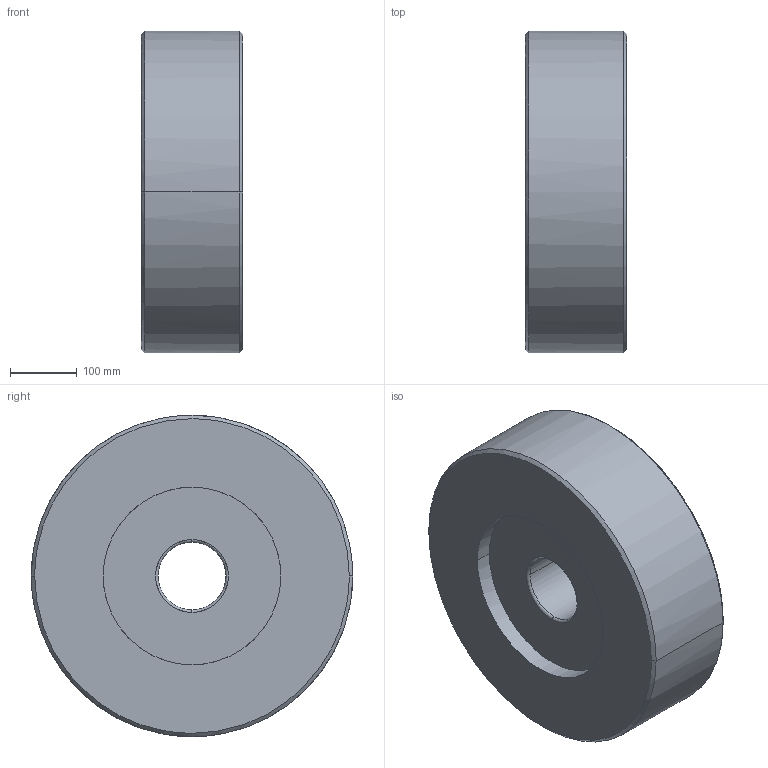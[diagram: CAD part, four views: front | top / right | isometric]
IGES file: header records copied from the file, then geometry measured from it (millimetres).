
Global section: native system: Kubotek KeyCreator; preprocessor: KCM Version 1.1.1442.0; author: KeyCreator User; organization: Self; date: 20170713.044115; units: inch
Bounding box: 152.4 x 482.6 x 482.6 mm (x, y, z)
Surface area: 645743.2 mm2 (no closed solid volume)
Topology: 0 solids, 0 shells, 20 faces, 128 edges, 128 vertices
Faces by surface type: bspline 20
